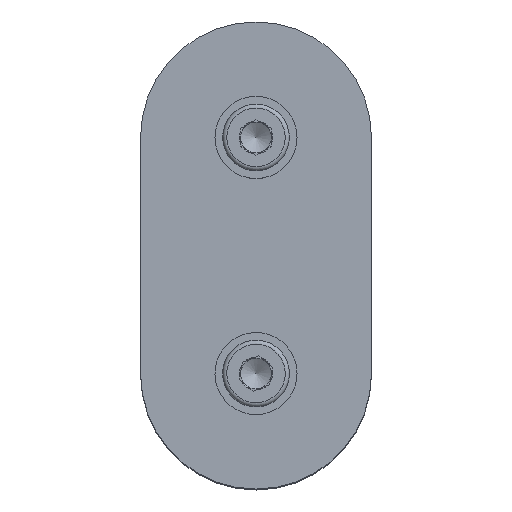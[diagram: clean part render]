
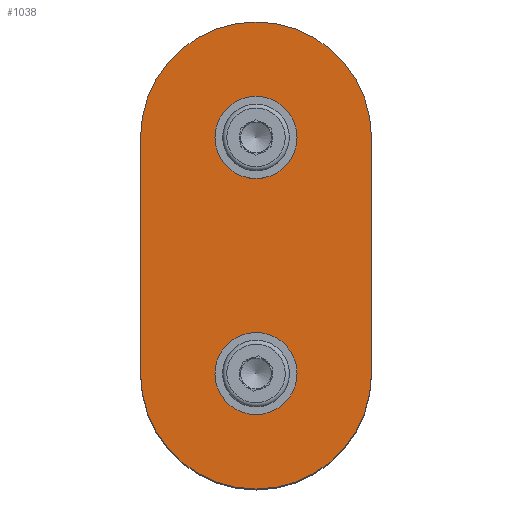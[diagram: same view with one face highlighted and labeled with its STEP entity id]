
A CAD part, top view. The second image highlights one B-rep face of the part: STEP entity #1038.
In plain terms, the highlighted planar face has unit normal (0, 0, 1).
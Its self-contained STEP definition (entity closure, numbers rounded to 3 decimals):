
#1 = CARTESIAN_POINT ( 'NONE',  ( 0., -46., 8. ) ) ;
#3 = CARTESIAN_POINT ( 'NONE',  ( 0., 0., 8. ) ) ;
#50 = DIRECTION ( 'NONE',  ( 0., 0., 1. ) ) ;
#55 = EDGE_CURVE ( 'NONE', #1948, #1421, #302, .T. ) ;
#124 = CARTESIAN_POINT ( 'NONE',  ( 45., 0., 8. ) ) ;
#144 = ORIENTED_EDGE ( 'NONE', *, *, #1722, .T. ) ;
#157 = ORIENTED_EDGE ( 'NONE', *, *, #2932, .T. ) ;
#252 = AXIS2_PLACEMENT_3D ( 'NONE', #1363, #2252, #590 ) ;
#302 = CIRCLE ( 'NONE', #1273, 22.5 ) ;
#305 = DIRECTION ( 'NONE',  ( 0., 0., 1. ) ) ;
#335 = CARTESIAN_POINT ( 'NONE',  ( 22.5, -46., 8. ) ) ;
#432 = EDGE_LOOP ( 'NONE', ( #2646 ) ) ;
#452 = AXIS2_PLACEMENT_3D ( 'NONE', #335, #1711, #1252 ) ;
#477 = VERTEX_POINT ( 'NONE', #3 ) ;
#537 = CARTESIAN_POINT ( 'NONE',  ( 22.5, 0., 8. ) ) ;
#560 = FACE_BOUND ( 'NONE', #432, .T. ) ;
#569 = DIRECTION ( 'NONE',  ( 1., 0., 0. ) ) ;
#579 = VERTEX_POINT ( 'NONE', #2908 ) ;
#581 = EDGE_LOOP ( 'NONE', ( #1263 ) ) ;
#590 = DIRECTION ( 'NONE',  ( 1., 0., 0. ) ) ;
#640 = CIRCLE ( 'NONE', #252, 4.25 ) ;
#644 = CIRCLE ( 'NONE', #1683, 22.5 ) ;
#668 = EDGE_CURVE ( 'NONE', #579, #579, #640, .T. ) ;
#692 = LINE ( 'NONE', #2422, #2439 ) ;
#736 = CIRCLE ( 'NONE', #1228, 4.25 ) ;
#847 = CARTESIAN_POINT ( 'NONE',  ( 45., -46., 8. ) ) ;
#848 = CARTESIAN_POINT ( 'NONE',  ( 22.5, -46., 8. ) ) ;
#918 = DIRECTION ( 'NONE',  ( 0., 1., 0. ) ) ;
#924 = DIRECTION ( 'NONE',  ( 0., -1., 0. ) ) ;
#939 = LINE ( 'NONE', #2156, #2748 ) ;
#1038 = ADVANCED_FACE ( 'NONE', ( #1688, #2187, #560 ), #2904, .T. ) ;
#1228 = AXIS2_PLACEMENT_3D ( 'NONE', #1727, #305, #569 ) ;
#1252 = DIRECTION ( 'NONE',  ( 1., 0., 0. ) ) ;
#1263 = ORIENTED_EDGE ( 'NONE', *, *, #668, .F. ) ;
#1273 = AXIS2_PLACEMENT_3D ( 'NONE', #848, #2056, #2470 ) ;
#1363 = CARTESIAN_POINT ( 'NONE',  ( 22.5, 0., 8. ) ) ;
#1421 = VERTEX_POINT ( 'NONE', #847 ) ;
#1550 = CARTESIAN_POINT ( 'NONE',  ( 26.75, -46., 8. ) ) ;
#1683 = AXIS2_PLACEMENT_3D ( 'NONE', #537, #50, #1950 ) ;
#1688 = FACE_BOUND ( 'NONE', #581, .T. ) ;
#1711 = DIRECTION ( 'NONE',  ( 0., 0., 1. ) ) ;
#1722 = EDGE_CURVE ( 'NONE', #2094, #477, #644, .T. ) ;
#1727 = CARTESIAN_POINT ( 'NONE',  ( 22.5, -46., 8. ) ) ;
#1948 = VERTEX_POINT ( 'NONE', #1 ) ;
#1950 = DIRECTION ( 'NONE',  ( -1., 0., 0. ) ) ;
#2056 = DIRECTION ( 'NONE',  ( 0., 0., 1. ) ) ;
#2059 = EDGE_CURVE ( 'NONE', #477, #1948, #939, .T. ) ;
#2094 = VERTEX_POINT ( 'NONE', #124 ) ;
#2156 = CARTESIAN_POINT ( 'NONE',  ( 0., 0., 8. ) ) ;
#2181 = ORIENTED_EDGE ( 'NONE', *, *, #55, .T. ) ;
#2187 = FACE_OUTER_BOUND ( 'NONE', #2438, .T. ) ;
#2252 = DIRECTION ( 'NONE',  ( 0., 0., 1. ) ) ;
#2422 = CARTESIAN_POINT ( 'NONE',  ( 45., 0., 8. ) ) ;
#2438 = EDGE_LOOP ( 'NONE', ( #2181, #157, #144, #2813 ) ) ;
#2439 = VECTOR ( 'NONE', #918, 1000. ) ;
#2470 = DIRECTION ( 'NONE',  ( 1., 0., 0. ) ) ;
#2629 = EDGE_CURVE ( 'NONE', #2707, #2707, #736, .T. ) ;
#2646 = ORIENTED_EDGE ( 'NONE', *, *, #2629, .F. ) ;
#2707 = VERTEX_POINT ( 'NONE', #1550 ) ;
#2748 = VECTOR ( 'NONE', #924, 1000. ) ;
#2813 = ORIENTED_EDGE ( 'NONE', *, *, #2059, .T. ) ;
#2904 = PLANE ( 'NONE',  #452 ) ;
#2908 = CARTESIAN_POINT ( 'NONE',  ( 26.75, 0., 8. ) ) ;
#2932 = EDGE_CURVE ( 'NONE', #1421, #2094, #692, .T. ) ;
